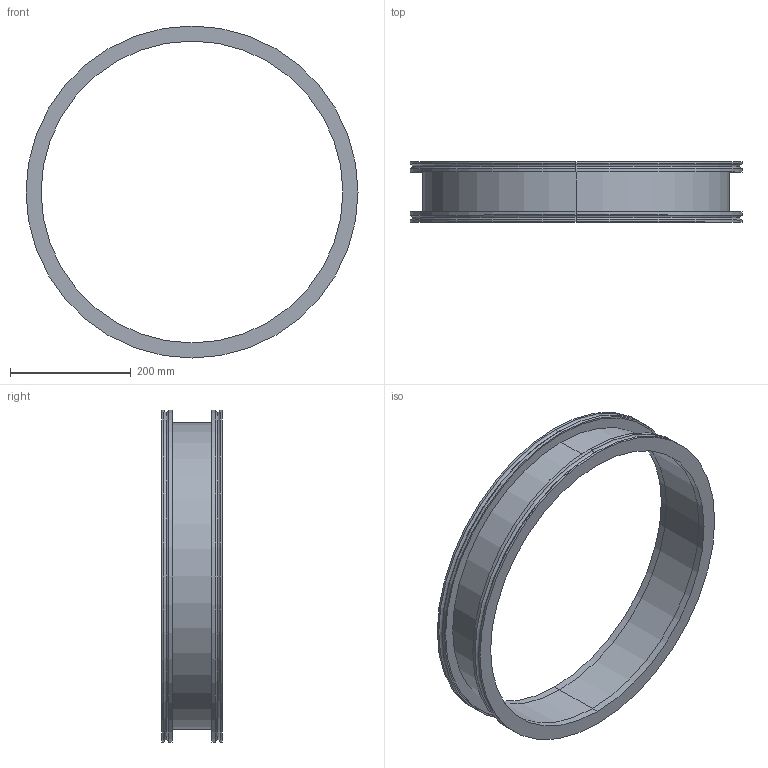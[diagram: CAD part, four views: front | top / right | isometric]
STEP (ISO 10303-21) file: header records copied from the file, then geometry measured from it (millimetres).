
FILE_DESCRIPTION (( 'STEP AP214' ), '1' );
FILE_NAME ('W4ZS500.STEP', '2020-09-23T06:33:52', ( '' ), ( '' ), 'SwSTEP 2.0', 'SolidWorks 2020', '' );
FILE_SCHEMA (( 'AUTOMOTIVE_DESIGN' ));
Length unit declared in the file: millimetre
Products named in the file (1): W4ZS500
Bounding box: 550 x 100 x 550 mm (x, y, z)
Volume: 1611227.5 mm3; surface area: 546520.9 mm2
Topology: 3 solids, 3 shells, 42 faces, 84 edges, 52 vertices
Faces by surface type: cylinder 24, plane 10, torus 8
Entity records: 1176 total; most frequent: DIRECTION 230, CARTESIAN_POINT 179, ORIENTED_EDGE 168, AXIS2_PLACEMENT_3D 103, EDGE_CURVE 84, CIRCLE 60, EDGE_LOOP 52, VERTEX_POINT 52
